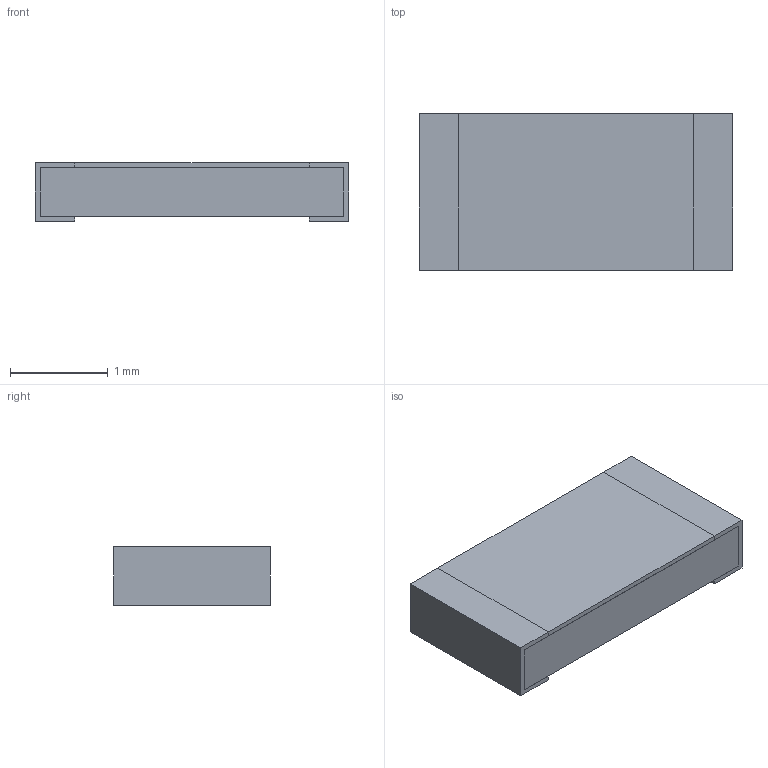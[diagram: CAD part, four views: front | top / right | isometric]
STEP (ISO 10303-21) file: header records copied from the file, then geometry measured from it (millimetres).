
FILE_DESCRIPTION(('STEP AP203'), '1');
FILE_NAME('P1-8B-1206', '', ('UNSPECIFIED'), ('UNSPECIFIED'), 'ASCON STEP Converter 1.6', 'ASCON Math Kernel', '');
FILE_SCHEMA(('CONFIG_CONTROL_DESIGN'));
Length unit declared in the file: millimetre
Bounding box: 3.2 x 1.6 x 0.6 mm (x, y, z)
Volume: 2.9 mm3; surface area: 31.8 mm2
Topology: 4 solids, 5 shells, 51 faces, 123 edges, 82 vertices
Faces by surface type: plane 47, cylinder 4
Entity records: 1937 total; most frequent: CARTESIAN_POINT 257, ORIENTED_EDGE 246, DIRECTION 235, EDGE_CURVE 123, LINE 115, VECTOR 115, VERTEX_POINT 82, AXIS2_PLACEMENT_3D 60
